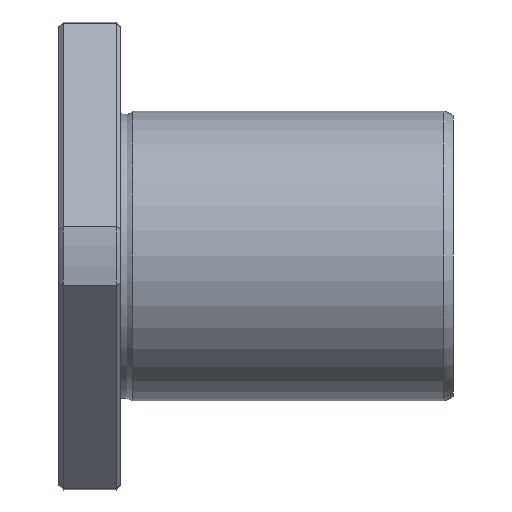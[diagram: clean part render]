
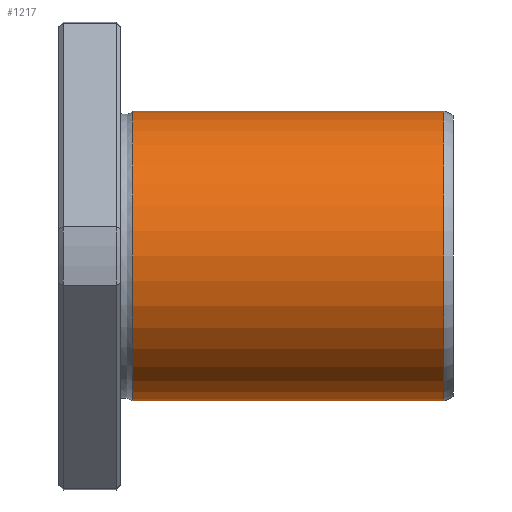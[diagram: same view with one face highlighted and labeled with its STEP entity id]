
A CAD part, front view. The second image highlights one B-rep face of the part: STEP entity #1217.
In plain terms, the highlighted cylindrical face has radius 23.5 mm (diameter 47 mm), a full revolution.
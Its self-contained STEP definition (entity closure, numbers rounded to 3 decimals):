
#1183=CARTESIAN_POINT('',(62.502,0.0,23.5));
#1184=VERTEX_POINT('',#1183);
#1185=CARTESIAN_POINT('',(62.502,0.0,0.0));
#1186=DIRECTION('',(-1.0,0.0,0.0));
#1187=DIRECTION('',(0.0,0.0,1.0));
#1188=AXIS2_PLACEMENT_3D('',#1185,#1186,#1187);
#1189=CIRCLE('',#1188,23.5);
#1190=EDGE_CURVE('',#1184,#1184,#1189,.T.);
#1198=CARTESIAN_POINT('',(37.262,0.0,0.0));
#1199=DIRECTION('',(-1.0,0.0,0.0));
#1200=DIRECTION('',(0.0,0.0,1.0));
#1201=AXIS2_PLACEMENT_3D('',#1198,#1199,#1200);
#1202=CYLINDRICAL_SURFACE('',#1201,23.5);
#1203=CARTESIAN_POINT('',(12.023,0.0,23.5));
#1204=VERTEX_POINT('',#1203);
#1205=CARTESIAN_POINT('',(12.023,0.0,0.0));
#1206=DIRECTION('',(-1.0,0.0,0.0));
#1207=DIRECTION('',(0.0,0.0,1.0));
#1208=AXIS2_PLACEMENT_3D('',#1205,#1206,#1207);
#1209=CIRCLE('',#1208,23.5);
#1210=EDGE_CURVE('',#1204,#1204,#1209,.T.);
#1211=ORIENTED_EDGE('',*,*,#1210,.F.);
#1212=EDGE_LOOP('',(#1211));
#1213=FACE_OUTER_BOUND('',#1212,.T.);
#1214=ORIENTED_EDGE('',*,*,#1190,.T.);
#1215=EDGE_LOOP('',(#1214));
#1216=FACE_BOUND('',#1215,.T.);
#1217=ADVANCED_FACE('',(#1213,#1216),#1202,.T.);
